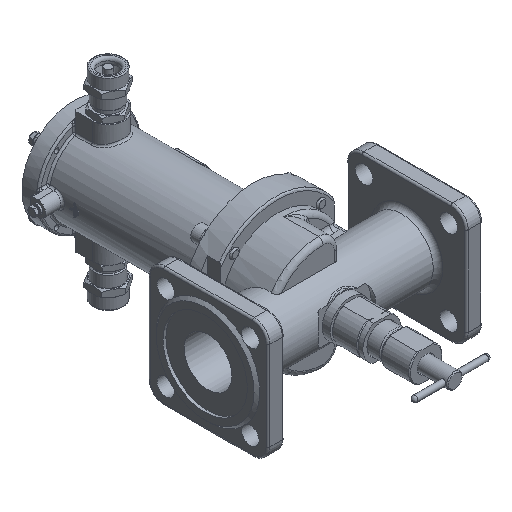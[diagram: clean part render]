
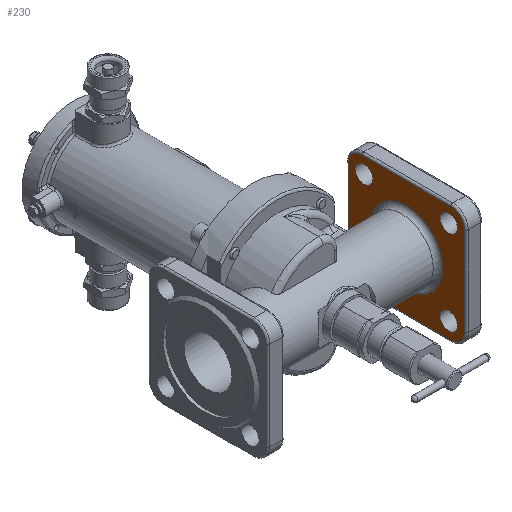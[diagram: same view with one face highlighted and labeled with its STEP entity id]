
A CAD part, isometric view. The second image highlights one B-rep face of the part: STEP entity #230.
In plain terms, the highlighted planar face has unit normal (-1, 0, 0).
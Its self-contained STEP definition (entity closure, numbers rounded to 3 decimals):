
#230=ADVANCED_FACE('',(#5112,#5114,#5116,#5118,#5120,#5122),#5124,.T.);
#5112=FACE_BOUND('',#5113,.T.);
#5113=EDGE_LOOP('',(#20941));
#5114=FACE_BOUND('',#5115,.T.);
#5115=EDGE_LOOP('',(#20942));
#5116=FACE_BOUND('',#5117,.T.);
#5117=EDGE_LOOP('',(#20943));
#5118=FACE_BOUND('',#5119,.T.);
#5119=EDGE_LOOP('',(#20944));
#5120=FACE_BOUND('',#5121,.T.);
#5121=EDGE_LOOP('',(#20945));
#5122=FACE_OUTER_BOUND('',#5123,.T.);
#5123=EDGE_LOOP('',(#20946,#20947,#20948,#20949,#20950,#20951,#20952,#20953));
#5124=PLANE('',#5125);
#5125=AXIS2_PLACEMENT_3D('',#5126,#5127,#5128);
#5126=CARTESIAN_POINT('',(95.,0.,0.));
#5127=DIRECTION('',(-1.,0.,0.));
#5128=DIRECTION('',(0.,1.,0.));
#20941=ORIENTED_EDGE('',*,*,#31993,.F.);
#20942=ORIENTED_EDGE('',*,*,#32059,.T.);
#20943=ORIENTED_EDGE('',*,*,#32060,.T.);
#20944=ORIENTED_EDGE('',*,*,#32061,.T.);
#20945=ORIENTED_EDGE('',*,*,#32062,.T.);
#20946=ORIENTED_EDGE('',*,*,#32063,.T.);
#20947=ORIENTED_EDGE('',*,*,#32064,.T.);
#20948=ORIENTED_EDGE('',*,*,#32065,.T.);
#20949=ORIENTED_EDGE('',*,*,#32066,.T.);
#20950=ORIENTED_EDGE('',*,*,#32067,.T.);
#20951=ORIENTED_EDGE('',*,*,#32068,.T.);
#20952=ORIENTED_EDGE('',*,*,#32069,.T.);
#20953=ORIENTED_EDGE('',*,*,#32070,.T.);
#31993=EDGE_CURVE('',#37074,#37074,#37076,.T.);
#32059=EDGE_CURVE('',#37174,#37174,#37175,.T.);
#32060=EDGE_CURVE('',#37176,#37176,#37177,.T.);
#32061=EDGE_CURVE('',#37178,#37178,#37179,.T.);
#32062=EDGE_CURVE('',#37180,#37180,#37181,.T.);
#32063=EDGE_CURVE('',#37182,#37183,#37184,.T.);
#32064=EDGE_CURVE('',#37183,#37185,#37186,.F.);
#32065=EDGE_CURVE('',#37185,#37187,#37188,.T.);
#32066=EDGE_CURVE('',#37187,#37189,#37190,.F.);
#32067=EDGE_CURVE('',#37189,#37191,#37192,.T.);
#32068=EDGE_CURVE('',#37191,#37193,#37194,.F.);
#32069=EDGE_CURVE('',#37193,#37195,#37196,.T.);
#32070=EDGE_CURVE('',#37195,#37182,#37197,.F.);
#37074=VERTEX_POINT('',#46961);
#37076=CIRCLE('',#46966,38.);
#37174=VERTEX_POINT('',#47460);
#37175=CIRCLE('',#47461,9.);
#37176=VERTEX_POINT('',#47465);
#37177=CIRCLE('',#47466,9.);
#37178=VERTEX_POINT('',#47470);
#37179=CIRCLE('',#47471,9.);
#37180=VERTEX_POINT('',#47475);
#37181=CIRCLE('',#47476,9.);
#37182=VERTEX_POINT('',#47480);
#37183=VERTEX_POINT('',#47481);
#37184=LINE('',#47482,#47483);
#37185=VERTEX_POINT('',#47485);
#37186=CIRCLE('',#47486,14.109);
#37187=VERTEX_POINT('',#47490);
#37188=LINE('',#47491,#47492);
#37189=VERTEX_POINT('',#47494);
#37190=CIRCLE('',#47495,14.109);
#37191=VERTEX_POINT('',#47499);
#37192=LINE('',#47500,#47501);
#37193=VERTEX_POINT('',#47503);
#37194=CIRCLE('',#47504,14.109);
#37195=VERTEX_POINT('',#47508);
#37196=LINE('',#47509,#47510);
#37197=CIRCLE('',#47512,14.109);
#46961=CARTESIAN_POINT('',(95.,38.,0.));
#46966=AXIS2_PLACEMENT_3D('',#46967,#46968,#46969);
#46967=CARTESIAN_POINT('',(95.,0.,0.));
#46968=DIRECTION('',(-1.,0.,0.));
#46969=DIRECTION('',(0.,1.,0.));
#47460=CARTESIAN_POINT('',(95.,44.194,-53.194));
#47461=AXIS2_PLACEMENT_3D('',#47462,#47463,#47464);
#47462=CARTESIAN_POINT('',(95.,44.194,-44.194));
#47463=DIRECTION('',(1.,0.,0.));
#47464=DIRECTION('',(0.,0.,-1.));
#47465=CARTESIAN_POINT('',(95.,-44.194,-53.194));
#47466=AXIS2_PLACEMENT_3D('',#47467,#47468,#47469);
#47467=CARTESIAN_POINT('',(95.,-44.194,-44.194));
#47468=DIRECTION('',(1.,0.,0.));
#47469=DIRECTION('',(0.,0.,-1.));
#47470=CARTESIAN_POINT('',(95.,44.194,53.194));
#47471=AXIS2_PLACEMENT_3D('',#47472,#47473,#47474);
#47472=CARTESIAN_POINT('',(95.,44.194,44.194));
#47473=DIRECTION('',(1.,0.,0.));
#47474=DIRECTION('',(0.,0.,1.));
#47475=CARTESIAN_POINT('',(95.,-44.194,53.194));
#47476=AXIS2_PLACEMENT_3D('',#47477,#47478,#47479);
#47477=CARTESIAN_POINT('',(95.,-44.194,44.194));
#47478=DIRECTION('',(1.,0.,0.));
#47479=DIRECTION('',(0.,0.,1.));
#47480=CARTESIAN_POINT('',(95.,-46.391,60.5));
#47481=CARTESIAN_POINT('',(95.,46.391,60.5));
#47482=CARTESIAN_POINT('',(95.,-46.391,60.5));
#47483=VECTOR('',#47484,1.);
#47484=DIRECTION('',(0.,1.,0.));
#47485=CARTESIAN_POINT('',(95.,60.5,46.391));
#47486=AXIS2_PLACEMENT_3D('',#47487,#47488,#47489);
#47487=CARTESIAN_POINT('',(95.,46.391,46.391));
#47488=DIRECTION('',(1.,0.,0.));
#47489=DIRECTION('',(0.,1.,0.));
#47490=CARTESIAN_POINT('',(95.,60.5,-46.391));
#47491=CARTESIAN_POINT('',(95.,60.5,46.391));
#47492=VECTOR('',#47493,1.);
#47493=DIRECTION('',(0.,0.,-1.));
#47494=CARTESIAN_POINT('',(95.,46.391,-60.5));
#47495=AXIS2_PLACEMENT_3D('',#47496,#47497,#47498);
#47496=CARTESIAN_POINT('',(95.,46.391,-46.391));
#47497=DIRECTION('',(1.,0.,0.));
#47498=DIRECTION('',(0.,0.,-1.));
#47499=CARTESIAN_POINT('',(95.,-46.391,-60.5));
#47500=CARTESIAN_POINT('',(95.,46.391,-60.5));
#47501=VECTOR('',#47502,1.);
#47502=DIRECTION('',(0.,-1.,0.));
#47503=CARTESIAN_POINT('',(95.,-60.5,-46.391));
#47504=AXIS2_PLACEMENT_3D('',#47505,#47506,#47507);
#47505=CARTESIAN_POINT('',(95.,-46.391,-46.391));
#47506=DIRECTION('',(1.,0.,0.));
#47507=DIRECTION('',(0.,-1.,0.));
#47508=CARTESIAN_POINT('',(95.,-60.5,46.391));
#47509=CARTESIAN_POINT('',(95.,-60.5,-46.391));
#47510=VECTOR('',#47511,1.);
#47511=DIRECTION('',(0.,0.,1.));
#47512=AXIS2_PLACEMENT_3D('',#47513,#47514,#47515);
#47513=CARTESIAN_POINT('',(95.,-46.391,46.391));
#47514=DIRECTION('',(1.,0.,0.));
#47515=DIRECTION('',(0.,0.,1.));
